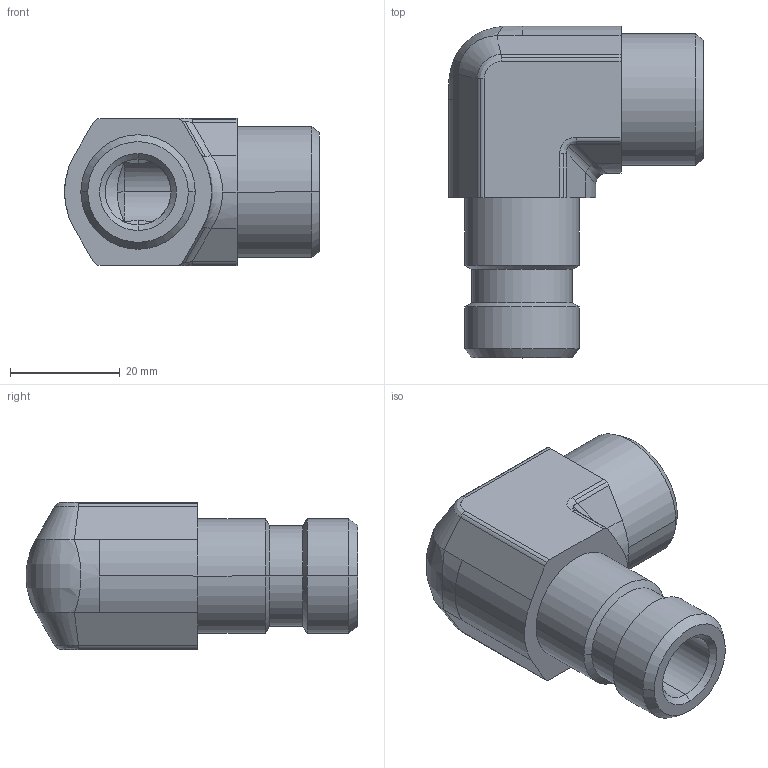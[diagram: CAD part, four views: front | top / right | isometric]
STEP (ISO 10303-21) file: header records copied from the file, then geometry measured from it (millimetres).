
FILE_DESCRIPTION((''),'2;1');
FILE_NAME('106119.stp','2007-10-31T14:49:22',(''),(''),'AutoCAD STEP 2000i','AutoCAD 2000i',', , ');
FILE_SCHEMA(('CONFIG_CONTROL_DESIGN'));
Length unit declared in the file: millimetre
Products named in the file (2): 106119.0; 3090#0
Assembly tree (1 placements, depth 2):
  106119.0
    3090#0
Bounding box: 46.38 x 60.38 x 26.75 mm (x, y, z)
Volume: 27193.9 mm3; surface area: 10052.7 mm2
Topology: 1 solids, 1 shells, 100 faces, 228 edges, 133 vertices
Faces by surface type: cylinder 48, cone 21, plane 19, bspline 12
Entity records: 3683 total; most frequent: CARTESIAN_POINT 1320, DIRECTION 504, ORIENTED_EDGE 456, EDGE_CURVE 228, AXIS2_PLACEMENT_3D 207, VERTEX_POINT 133, EDGE_LOOP 105, FACE_OUTER_BOUND 100
